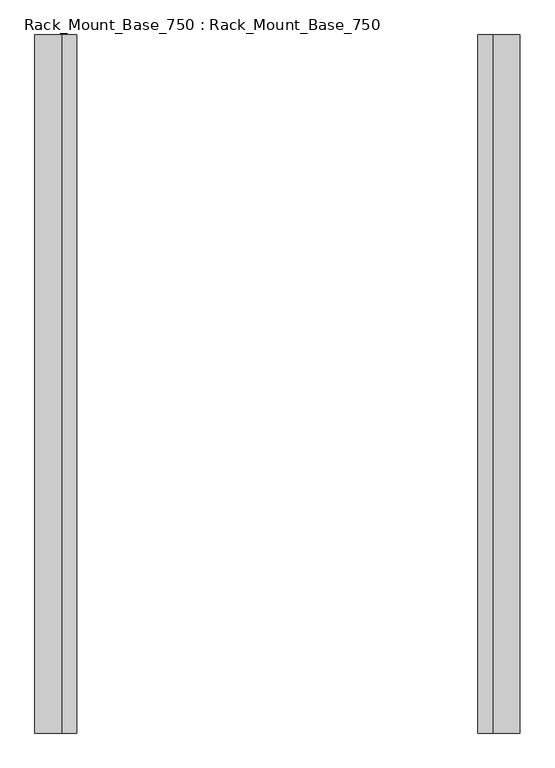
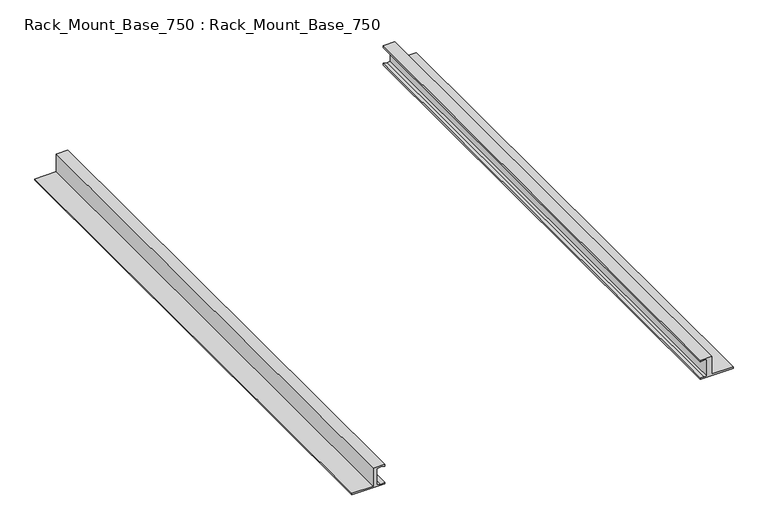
"""IFC4 building model written with IfcOpenShell, lengths in millimetres: proxy geometry, Rack_Mount_Base_750 : Rack_Mount_Base_750."""

from ifc_helpers import new_model, si_unit, frame, origin, place, context, project, spatial, polyline, outline, extrude, source, transform, mapped, element, save


def rack_mount_base_750_rack_mount_base_750_28cbcc94(model_context):
    return source(origin(), model_context, "Body", "SweptSolid", [
        extrude(outline(polyline([(0.0, 0.0), (0.0, 65.0), (3.53644, 65.0), (2.0364404, 57.0000005), (3.5364397, 48.9999982), (36.4977283, 48.9999982), (37.9977287, 57.0000005), (36.4977283, 64.9999982), (39.9999999, 64.9999982), (39.9999999, 41.9999985), (2.9999995, 41.9999985), (2.9999995, 0.0), (0.0, 0.0)])), frame((0.0, -1079.0, 0.0), z_axis=(0.0, 1.0, 0.0), x_axis=(0.0, 0.0, 1.0)), (0.0, 0.0, 1.0), 1079.0),
        extrude(outline(polyline([(0.0, 750.0), (2.9999995, 750.0), (2.9999995, 708.0000015), (39.9999999, 708.0000015), (39.9999999, 685.0000018), (36.4977283, 685.0000018), (37.9977287, 692.9999995), (37.0040643, 698.2995432), (3.0301041, 698.2995432), (2.0364404, 692.9999995), (3.53644, 685.0), (0.0, 685.0), (0.0, 750.0)])), frame((0.0, -1079.0, 0.0), z_axis=(0.0, 1.0, 0.0), x_axis=(0.0, 0.0, 1.0)), (0.0, 0.0, 1.0), 1079.0),
    ])


if __name__ == "__main__":
    model = new_model("IFC4")
    model_context = context("Model", 3, world=origin())
    ifc_project = project(units=[si_unit("LENGTHUNIT", "METRE", prefix="MILLI")], contexts=[model_context])
    site = spatial("IfcSite", under=ifc_project)
    building = spatial("IfcBuilding", under=site)
    placement = place(None, origin())
    rack_mount_base_750_rack_mount_base_750_shape = rack_mount_base_750_rack_mount_base_750_28cbcc94(model_context)
    element("IfcBuildingElementProxy", 1, Name="Rack_Mount_Base_750 : Rack_Mount_Base_750", ObjectType="Rack_Mount_Base_750 : Rack_Mount_Base_750", at=placement, inside=building, context=model_context, shape_type="MappedRepresentation", body=[
        mapped(rack_mount_base_750_rack_mount_base_750_shape, transform((0.0, 0.0, 0.0), x_axis=(1.0, 0.0, 0.0), y_axis=(0.0, 1.0, 0.0), z_axis=(0.0, 0.0, 1.0))),
    ])
    save(model, "model.ifc")
